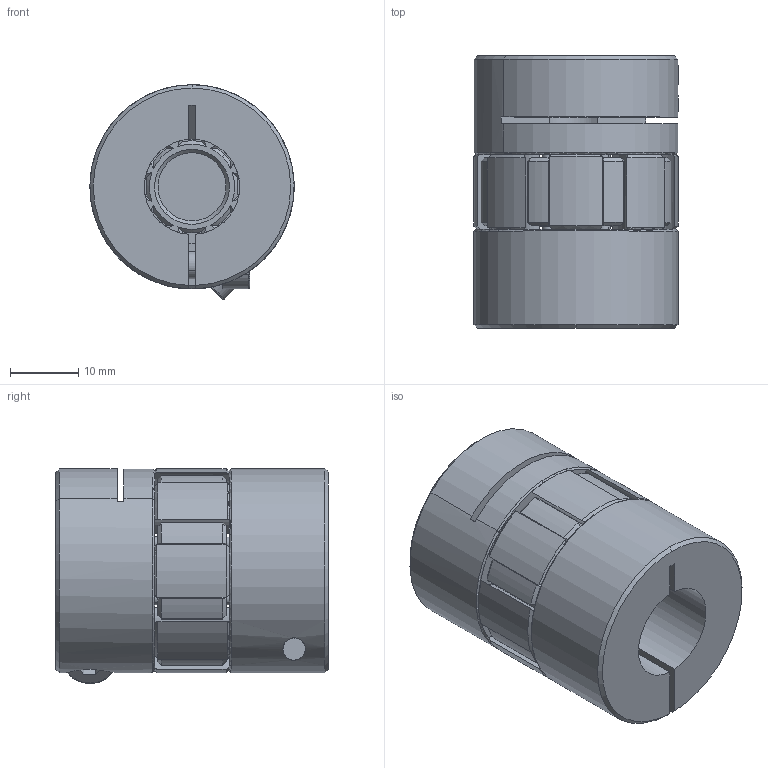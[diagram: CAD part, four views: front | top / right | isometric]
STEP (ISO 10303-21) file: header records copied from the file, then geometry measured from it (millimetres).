
FILE_DESCRIPTION (( 'STEP AP214' ), '1' );
FILE_NAME ('Jaw coupling.STEP', '2018-07-18T09:16:50', ( '' ), ( '' ), 'SwSTEP 2.0', 'SolidWorks 2017', '' );
FILE_SCHEMA (( 'AUTOMOTIVE_DESIGN' ));
Length unit declared in the file: millimetre
Products named in the file (5): Bolt DIN912 M4x10; Jaw coupling_1; Jaw coupling_2; Jaw coupling; Jaw coupling_3
Assembly tree (5 placements, depth 2):
  Jaw coupling
    Jaw coupling_2
    Jaw coupling_1
    Bolt DIN912 M4x10  x2
    Jaw coupling_3
Bounding box: 30 x 40 x 31.53 mm (x, y, z)
Volume: 21782.6 mm3; surface area: 12956 mm2
Topology: 5 solids, 5 shells, 313 faces, 747 edges, 455 vertices
Faces by surface type: cylinder 122, cone 102, plane 69, torus 12, bspline 8
Entity records: 9350 total; most frequent: CARTESIAN_POINT 2091, DIRECTION 1517, ORIENTED_EDGE 1374, EDGE_CURVE 687, AXIS2_PLACEMENT_3D 660, VERTEX_POINT 422, CIRCLE 370, EDGE_LOOP 309
